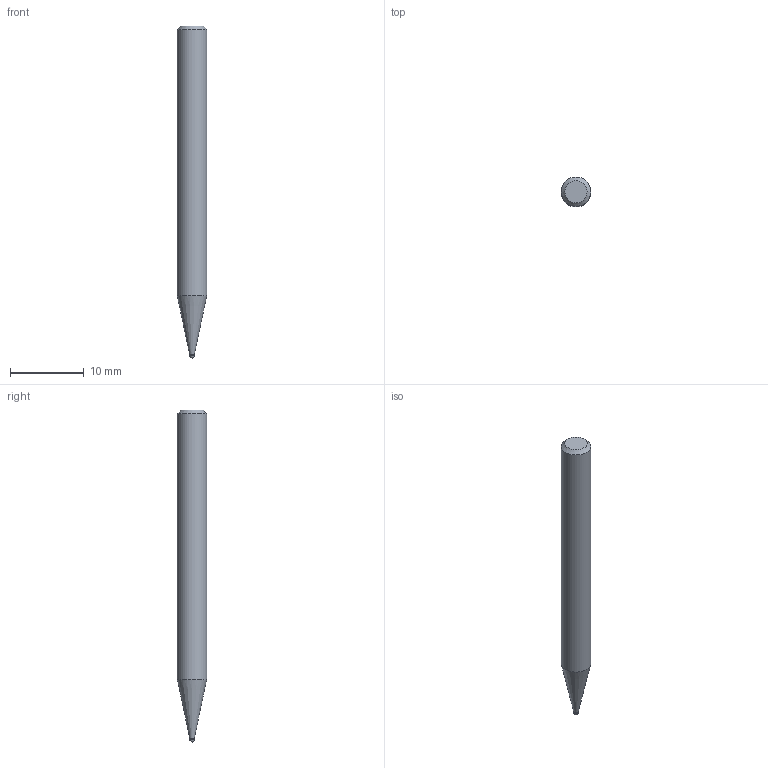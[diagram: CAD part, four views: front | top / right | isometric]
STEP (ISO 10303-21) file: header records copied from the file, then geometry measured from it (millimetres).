
FILE_DESCRIPTION((''),'2;1');
FILE_NAME('C:\Users\nsx150\AppData\Local\Temp\Mastercam 2021\ARV7HD45SN\TEMP.step','2023-06-13T16:33:45',(''),(''),'STEP Write','Mastercam 2021 ... CNC Software, Inc.','');
FILE_SCHEMA(('AUTOMOTIVE_DESIGN'));
Length unit declared in the file: millimetre
Products named in the file (1): None
Bounding box: 4 x 4 x 45 mm (x, y, z)
Volume: 497.3 mm3; surface area: 528.4 mm2
Topology: 2 solids, 2 shells, 8 faces, 12 edges, 7 vertices
Faces by surface type: plane 3, cylinder 2, cone 2, sphere 1
Full cylindrical faces by diameter (mm): 0.6 x1, 4 x1
Entity records: 190 total; most frequent: DIRECTION 32, CARTESIAN_POINT 22, AXIS2_PLACEMENT_3D 16, ORIENTED_EDGE 12, EDGE_LOOP 12, STYLED_ITEM 11, ADVANCED_FACE 8, VERTEX_POINT 6
